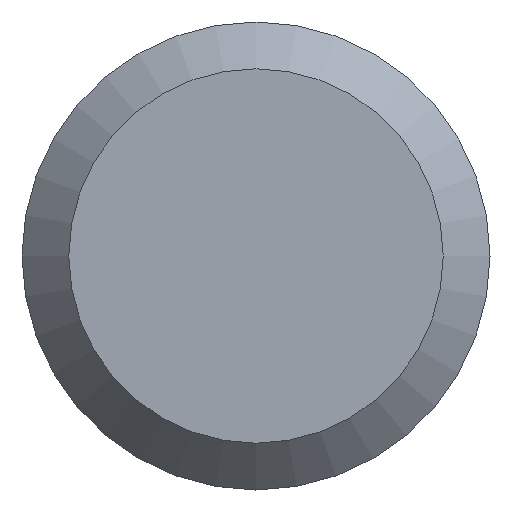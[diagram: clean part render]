
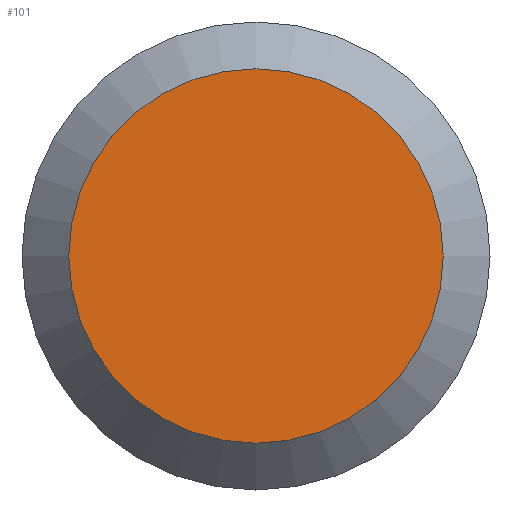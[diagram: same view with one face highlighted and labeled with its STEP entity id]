
A CAD part, left-side view. The second image highlights one B-rep face of the part: STEP entity #101.
In plain terms, the highlighted planar face has unit normal (-1, 0, 0).
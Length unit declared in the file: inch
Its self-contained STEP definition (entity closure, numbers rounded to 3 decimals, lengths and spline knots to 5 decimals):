
#9 = ORIENTED_EDGE ( 'NONE', *, *, #26, .T. ) ;
#10 = DIRECTION ( 'NONE',  ( 0., 0., -1. ) ) ;
#26 = EDGE_CURVE ( 'NONE', #183, #183, #126, .T. ) ;
#38 = EDGE_LOOP ( 'NONE', ( #9 ) ) ;
#74 = FACE_OUTER_BOUND ( 'NONE', #38, .T. ) ;
#89 = CARTESIAN_POINT ( 'NONE',  ( 0., 0., -0.06875 ) ) ;
#101 = ADVANCED_FACE ( 'NONE', ( #74 ), #105, .F. ) ;
#105 = PLANE ( 'NONE',  #159 ) ;
#126 = CIRCLE ( 'NONE', #194, 0.06875 ) ;
#159 = AXIS2_PLACEMENT_3D ( 'NONE', #171, #160, #10 ) ;
#160 = DIRECTION ( 'NONE',  ( 1., 0., 0. ) ) ;
#171 = CARTESIAN_POINT ( 'NONE',  ( 0., 0.08594, 0. ) ) ;
#183 = VERTEX_POINT ( 'NONE', #89 ) ;
#194 = AXIS2_PLACEMENT_3D ( 'NONE', #220, #219, #195 ) ;
#195 = DIRECTION ( 'NONE',  ( 0., 0., -1. ) ) ;
#219 = DIRECTION ( 'NONE',  ( -1., 0., 0. ) ) ;
#220 = CARTESIAN_POINT ( 'NONE',  ( 0., 0., 0. ) ) ;
